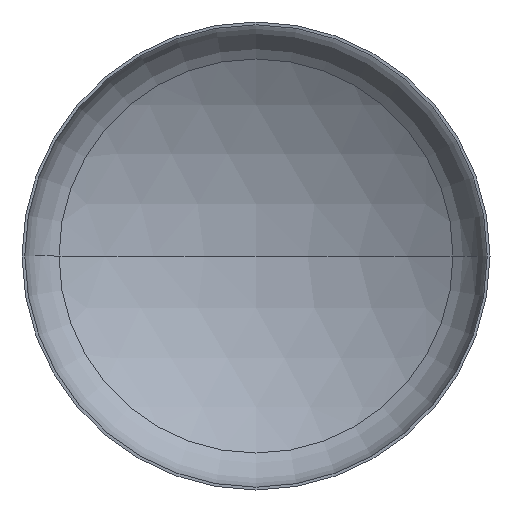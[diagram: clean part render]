
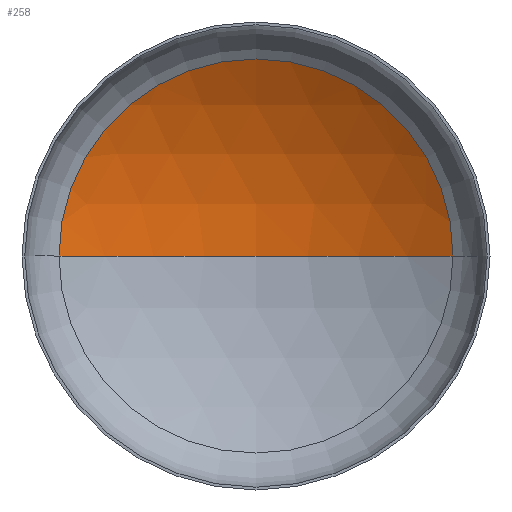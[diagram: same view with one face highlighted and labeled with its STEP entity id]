
A CAD part, front view. The second image highlights one B-rep face of the part: STEP entity #258.
In plain terms, the highlighted spherical face has radius 6000 mm.
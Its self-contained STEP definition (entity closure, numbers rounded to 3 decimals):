
#12 = DIRECTION ( 'NONE',  ( 1., 0., 0. ) ) ;
#29 = DIRECTION ( 'NONE',  ( 0., 0., -1. ) ) ;
#32 = AXIS2_PLACEMENT_3D ( 'NONE', #185, #29, #378 ) ;
#38 = ORIENTED_EDGE ( 'NONE', *, *, #153, .F. ) ;
#47 = VERTEX_POINT ( 'NONE', #293 ) ;
#66 = CIRCLE ( 'NONE', #75, 6000. ) ;
#75 = AXIS2_PLACEMENT_3D ( 'NONE', #261, #281, #12 ) ;
#78 = AXIS2_PLACEMENT_3D ( 'NONE', #204, #326, #191 ) ;
#81 = AXIS2_PLACEMENT_3D ( 'NONE', #213, #209, #212 ) ;
#87 = VERTEX_POINT ( 'NONE', #247 ) ;
#119 = EDGE_LOOP ( 'NONE', ( #38, #150, #134 ) ) ;
#134 = ORIENTED_EDGE ( 'NONE', *, *, #146, .T. ) ;
#140 = VERTEX_POINT ( 'NONE', #197 ) ;
#146 = EDGE_CURVE ( 'NONE', #140, #87, #375, .T. ) ;
#150 = ORIENTED_EDGE ( 'NONE', *, *, #151, .T. ) ;
#151 = EDGE_CURVE ( 'NONE', #47, #140, #202, .T. ) ;
#153 = EDGE_CURVE ( 'NONE', #47, #87, #66, .T. ) ;
#185 = CARTESIAN_POINT ( 'NONE',  ( 0., -3979.651, 0. ) ) ;
#187 = SPHERICAL_SURFACE ( 'NONE', #32, 6000. ) ;
#191 = DIRECTION ( 'NONE',  ( -1., 0., 0. ) ) ;
#197 = CARTESIAN_POINT ( 'NONE',  ( 3157.895, 1122.084, 0. ) ) ;
#202 = CIRCLE ( 'NONE', #78, 6000. ) ;
#204 = CARTESIAN_POINT ( 'NONE',  ( 0., -3979.651, 0. ) ) ;
#209 = DIRECTION ( 'NONE',  ( 0., -1., 0. ) ) ;
#212 = DIRECTION ( 'NONE',  ( 1., 0., 0. ) ) ;
#213 = CARTESIAN_POINT ( 'NONE',  ( 0., 1122.084, 0. ) ) ;
#247 = CARTESIAN_POINT ( 'NONE',  ( -3157.895, 1122.084, 0. ) ) ;
#258 = ADVANCED_FACE ( 'NONE', ( #292 ), #187, .F. ) ;
#261 = CARTESIAN_POINT ( 'NONE',  ( 0., -3979.651, 0. ) ) ;
#281 = DIRECTION ( 'NONE',  ( 0., 0., 1. ) ) ;
#292 = FACE_OUTER_BOUND ( 'NONE', #119, .T. ) ;
#293 = CARTESIAN_POINT ( 'NONE',  ( 0., 2020.349, 0. ) ) ;
#326 = DIRECTION ( 'NONE',  ( 0., 0., -1. ) ) ;
#375 = CIRCLE ( 'NONE', #81, 3157.895 ) ;
#378 = DIRECTION ( 'NONE',  ( -1., 0., 0. ) ) ;
